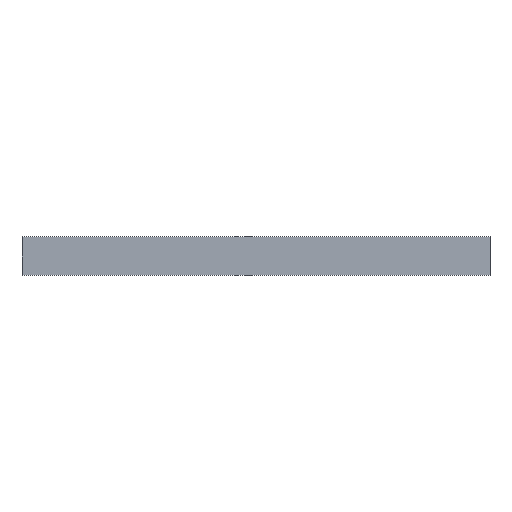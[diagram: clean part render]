
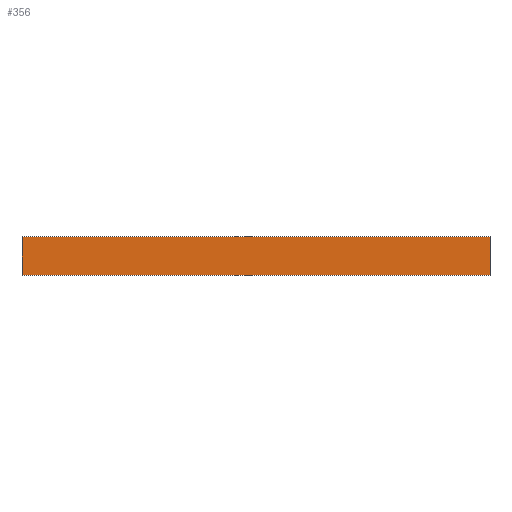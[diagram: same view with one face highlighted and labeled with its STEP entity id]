
A CAD part, top view. The second image highlights one B-rep face of the part: STEP entity #356.
In plain terms, the highlighted planar face has unit normal (0, 0, 1).
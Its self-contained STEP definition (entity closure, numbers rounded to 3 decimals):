
#42 = VERTEX_POINT('',#43);
#43 = CARTESIAN_POINT('',(0.,0.,0.6));
#50 = PLANE('',#51);
#51 = AXIS2_PLACEMENT_3D('',#52,#53,#54);
#52 = CARTESIAN_POINT('',(0.,0.,0.));
#53 = DIRECTION('',(1.,0.,-0.));
#54 = DIRECTION('',(0.,0.,1.));
#62 = PLANE('',#63);
#63 = AXIS2_PLACEMENT_3D('',#64,#65,#66);
#64 = CARTESIAN_POINT('',(0.,0.,0.));
#65 = DIRECTION('',(-0.,1.,0.));
#66 = DIRECTION('',(0.,0.,1.));
#103 = VERTEX_POINT('',#104);
#104 = CARTESIAN_POINT('',(0.,10.3,0.6));
#118 = PLANE('',#119);
#119 = AXIS2_PLACEMENT_3D('',#120,#121,#122);
#120 = CARTESIAN_POINT('',(0.,10.3,0.));
#121 = DIRECTION('',(-0.,1.,0.));
#122 = DIRECTION('',(0.,0.,1.));
#130 = EDGE_CURVE('',#42,#103,#131,.T.);
#131 = SURFACE_CURVE('',#132,(#136,#143),.PCURVE_S1.);
#132 = LINE('',#133,#134);
#133 = CARTESIAN_POINT('',(0.,0.,0.6));
#134 = VECTOR('',#135,1.);
#135 = DIRECTION('',(-0.,1.,0.));
#136 = PCURVE('',#50,#137);
#137 = DEFINITIONAL_REPRESENTATION('',(#138),#142);
#138 = LINE('',#139,#140);
#139 = CARTESIAN_POINT('',(0.6,0.));
#140 = VECTOR('',#141,1.);
#141 = DIRECTION('',(0.,-1.));
#142 = ( GEOMETRIC_REPRESENTATION_CONTEXT(2) 
PARAMETRIC_REPRESENTATION_CONTEXT() REPRESENTATION_CONTEXT('2D SPACE',''
  ) );
#143 = PCURVE('',#144,#149);
#144 = PLANE('',#145);
#145 = AXIS2_PLACEMENT_3D('',#146,#147,#148);
#146 = CARTESIAN_POINT('',(0.,0.,0.6));
#147 = DIRECTION('',(0.,0.,1.));
#148 = DIRECTION('',(1.,0.,-0.));
#149 = DEFINITIONAL_REPRESENTATION('',(#150),#154);
#150 = LINE('',#151,#152);
#151 = CARTESIAN_POINT('',(0.,0.));
#152 = VECTOR('',#153,1.);
#153 = DIRECTION('',(0.,1.));
#154 = ( GEOMETRIC_REPRESENTATION_CONTEXT(2) 
PARAMETRIC_REPRESENTATION_CONTEXT() REPRESENTATION_CONTEXT('2D SPACE',''
  ) );
#162 = VERTEX_POINT('',#163);
#163 = CARTESIAN_POINT('',(125.85,0.,0.6));
#170 = PLANE('',#171);
#171 = AXIS2_PLACEMENT_3D('',#172,#173,#174);
#172 = CARTESIAN_POINT('',(125.85,0.,0.));
#173 = DIRECTION('',(1.,0.,-0.));
#174 = DIRECTION('',(0.,0.,1.));
#213 = VERTEX_POINT('',#214);
#214 = CARTESIAN_POINT('',(125.85,10.3,0.6));
#235 = EDGE_CURVE('',#162,#213,#236,.T.);
#236 = SURFACE_CURVE('',#237,(#241,#248),.PCURVE_S1.);
#237 = LINE('',#238,#239);
#238 = CARTESIAN_POINT('',(125.85,0.,0.6));
#239 = VECTOR('',#240,1.);
#240 = DIRECTION('',(-0.,1.,0.));
#241 = PCURVE('',#170,#242);
#242 = DEFINITIONAL_REPRESENTATION('',(#243),#247);
#243 = LINE('',#244,#245);
#244 = CARTESIAN_POINT('',(0.6,0.));
#245 = VECTOR('',#246,1.);
#246 = DIRECTION('',(0.,-1.));
#247 = ( GEOMETRIC_REPRESENTATION_CONTEXT(2) 
PARAMETRIC_REPRESENTATION_CONTEXT() REPRESENTATION_CONTEXT('2D SPACE',''
  ) );
#248 = PCURVE('',#144,#249);
#249 = DEFINITIONAL_REPRESENTATION('',(#250),#254);
#250 = LINE('',#251,#252);
#251 = CARTESIAN_POINT('',(125.85,0.));
#252 = VECTOR('',#253,1.);
#253 = DIRECTION('',(0.,1.));
#254 = ( GEOMETRIC_REPRESENTATION_CONTEXT(2) 
PARAMETRIC_REPRESENTATION_CONTEXT() REPRESENTATION_CONTEXT('2D SPACE',''
  ) );
#281 = EDGE_CURVE('',#42,#162,#282,.T.);
#282 = SURFACE_CURVE('',#283,(#287,#294),.PCURVE_S1.);
#283 = LINE('',#284,#285);
#284 = CARTESIAN_POINT('',(0.,0.,0.6));
#285 = VECTOR('',#286,1.);
#286 = DIRECTION('',(1.,0.,-0.));
#287 = PCURVE('',#62,#288);
#288 = DEFINITIONAL_REPRESENTATION('',(#289),#293);
#289 = LINE('',#290,#291);
#290 = CARTESIAN_POINT('',(0.6,0.));
#291 = VECTOR('',#292,1.);
#292 = DIRECTION('',(0.,1.));
#293 = ( GEOMETRIC_REPRESENTATION_CONTEXT(2) 
PARAMETRIC_REPRESENTATION_CONTEXT() REPRESENTATION_CONTEXT('2D SPACE',''
  ) );
#294 = PCURVE('',#144,#295);
#295 = DEFINITIONAL_REPRESENTATION('',(#296),#300);
#296 = LINE('',#297,#298);
#297 = CARTESIAN_POINT('',(0.,0.));
#298 = VECTOR('',#299,1.);
#299 = DIRECTION('',(1.,0.));
#300 = ( GEOMETRIC_REPRESENTATION_CONTEXT(2) 
PARAMETRIC_REPRESENTATION_CONTEXT() REPRESENTATION_CONTEXT('2D SPACE',''
  ) );
#328 = EDGE_CURVE('',#103,#213,#329,.T.);
#329 = SURFACE_CURVE('',#330,(#334,#341),.PCURVE_S1.);
#330 = LINE('',#331,#332);
#331 = CARTESIAN_POINT('',(0.,10.3,0.6));
#332 = VECTOR('',#333,1.);
#333 = DIRECTION('',(1.,0.,-0.));
#334 = PCURVE('',#118,#335);
#335 = DEFINITIONAL_REPRESENTATION('',(#336),#340);
#336 = LINE('',#337,#338);
#337 = CARTESIAN_POINT('',(0.6,0.));
#338 = VECTOR('',#339,1.);
#339 = DIRECTION('',(0.,1.));
#340 = ( GEOMETRIC_REPRESENTATION_CONTEXT(2) 
PARAMETRIC_REPRESENTATION_CONTEXT() REPRESENTATION_CONTEXT('2D SPACE',''
  ) );
#341 = PCURVE('',#144,#342);
#342 = DEFINITIONAL_REPRESENTATION('',(#343),#347);
#343 = LINE('',#344,#345);
#344 = CARTESIAN_POINT('',(0.,10.3));
#345 = VECTOR('',#346,1.);
#346 = DIRECTION('',(1.,0.));
#347 = ( GEOMETRIC_REPRESENTATION_CONTEXT(2) 
PARAMETRIC_REPRESENTATION_CONTEXT() REPRESENTATION_CONTEXT('2D SPACE',''
  ) );
#356 = ADVANCED_FACE('',(#357),#144,.T.);
#357 = FACE_BOUND('',#358,.T.);
#358 = EDGE_LOOP('',(#359,#360,#361,#362));
#359 = ORIENTED_EDGE('',*,*,#130,.F.);
#360 = ORIENTED_EDGE('',*,*,#281,.T.);
#361 = ORIENTED_EDGE('',*,*,#235,.T.);
#362 = ORIENTED_EDGE('',*,*,#328,.F.);
